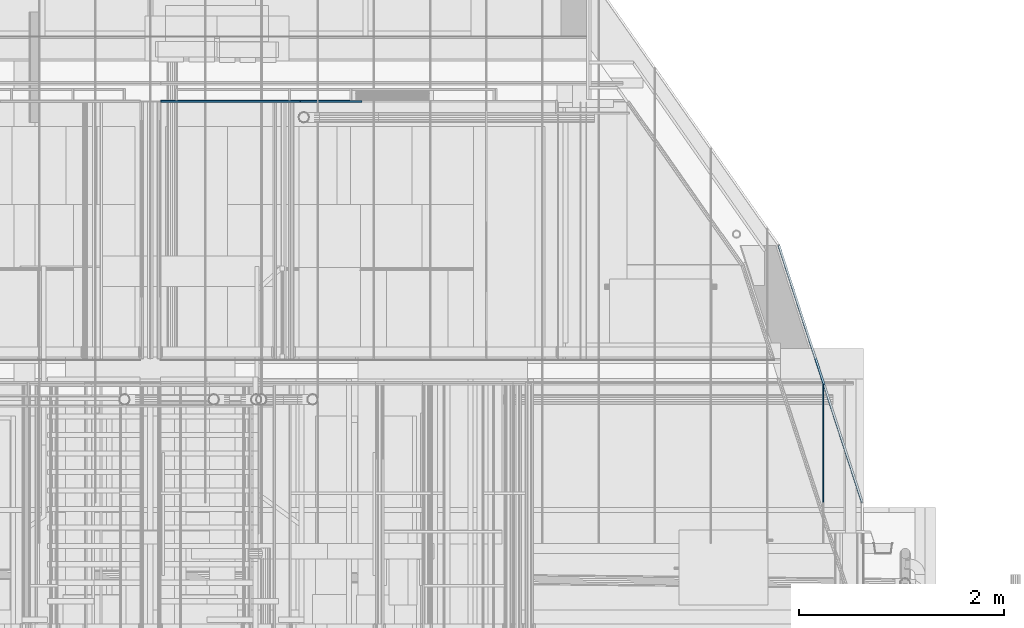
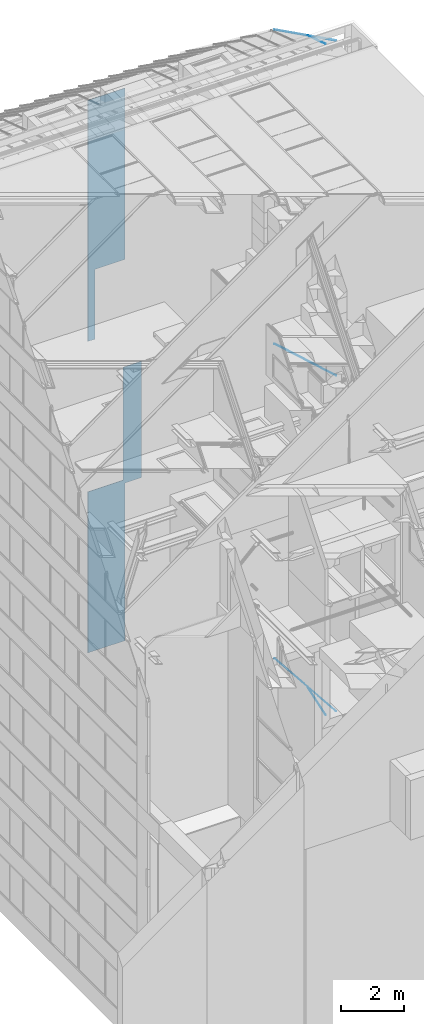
# One storey, part 287 of 583: 7 slabs.
"""IFC2X3 building model written with IfcOpenShell, lengths in metres."""

import ifcopenshell
import ifcopenshell.guid

model = None  # the IFC model being written
_history = None  # IfcOwnerHistory: only IFC2X3 demands one
_inside = {}  # id of a spatial element -> (the spatial element, [elements in it])
_under = {}  # id of a project, library or spatial element -> (it, [spatial elements below it])
_declared = {}  # id of a project -> (the project, [libraries it declares])
_typed = {}  # id of a type object -> (the type object, [elements of that type])
_made_of = {}  # id of a material, layer set ... -> (it, [elements and type objects made of it])


def new_model(schema):
    """Start an empty IFC model of exactly this schema.

    Asked for "IFC4X3", IfcOpenShell would pick the latest addendum, in which some entities
    have other attributes; the version numbers below select the first issue.
    IFC2X3 requires an IfcOwnerHistory on every rooted entity: one is made here for all.
    """
    global model, _history
    if schema == "IFC4X3":
        model = ifcopenshell.file(schema_version=(4, 3, 0, 0))
    else:
        model = ifcopenshell.file(schema=schema)
    _inside.clear()
    _under.clear()
    _declared.clear()
    _typed.clear()
    _made_of.clear()
    _history = None
    if model.schema == "IFC2X3":
        org = make("IfcOrganization", Name="unknown")
        user = make(
            "IfcPersonAndOrganization",
            ThePerson=make("IfcPerson", FamilyName="unknown"),
            TheOrganization=org,
        )
        app = make(
            "IfcApplication",
            ApplicationDeveloper=org,
            Version="unknown",
            ApplicationFullName="unknown",
            ApplicationIdentifier="unknown",
        )
        _history = make(
            "IfcOwnerHistory",
            OwningUser=user,
            OwningApplication=app,
            ChangeAction="ADDED",
            CreationDate=0,
        )
    return model


def make(cls, **values):
    """One entity of the class cls with the attributes given. An attribute that is None is left unset."""
    return model.create_entity(
        cls, **{name: value for name, value in values.items() if value is not None}
    )


def entity(cls, *values):
    """Any entity or typed value of the class cls, its attributes in the order of the schema. None: left unset."""
    e = model.create_entity(cls)
    for i, value in enumerate(values):
        if value is not None:
            e[i] = value
    return e


def rooted(cls, **values):
    """An entity with a GlobalId (a new one), such as an element, a storey or a relation."""
    return make(cls, GlobalId=ifcopenshell.guid.new(), OwnerHistory=_history, **values)


def si_unit(unit_type, name, prefix=None):
    """IfcSIUnit, for example si_unit("LENGTHUNIT", "METRE", prefix="MILLI")."""
    return make("IfcSIUnit", UnitType=unit_type, Prefix=prefix, Name=name)


def converted_unit(unit_type, name, factor, base, dimensions=None, offset=None):
    """IfcConversionBasedUnit, such as the inch: factor (a typed value) times the base unit."""
    return make(
        "IfcConversionBasedUnit"
        if offset is None
        else "IfcConversionBasedUnitWithOffset",
        ConversionOffset=offset,
        Dimensions=None
        if dimensions is None
        else entity("IfcDimensionalExponents", *dimensions),
        UnitType=unit_type,
        Name=name,
        ConversionFactor=make(
            "IfcMeasureWithUnit", ValueComponent=factor, UnitComponent=base
        ),
    )


def derived_unit(unit_type, elements):
    """IfcDerivedUnit: a product of units, each with its exponent."""
    return make(
        "IfcDerivedUnit",
        Elements=[
            make("IfcDerivedUnitElement", Unit=unit, Exponent=power)
            for unit, power in elements
        ],
        UnitType=unit_type,
    )


def money_unit(currency):
    """IfcMonetaryUnit."""
    return make("IfcMonetaryUnit", Currency=currency)


def assignment(units):
    """IfcUnitAssignment: the units of a project."""
    return None if units is None else make("IfcUnitAssignment", Units=units)


def point(xyz):
    """IfcCartesianPoint."""
    return None if xyz is None else make("IfcCartesianPoint", Coordinates=xyz)


def direction(xyz):
    """IfcDirection."""
    return None if xyz is None else make("IfcDirection", DirectionRatios=xyz)


def frame(location, z_axis=None, x_axis=None):
    """IfcAxis2Placement3D, a coordinate frame: its origin and axes. An axis left out is left unset."""
    return make(
        "IfcAxis2Placement3D",
        Location=point(location),
        Axis=direction(z_axis),
        RefDirection=direction(x_axis),
    )


def origin_with_axes():
    """The frame at (0, 0, 0) with the z axis (0, 0, 1) and the x axis (1, 0, 0) written out."""
    return frame((0.0, 0.0, 0.0), z_axis=(0.0, 0.0, 1.0), x_axis=(1.0, 0.0, 0.0))


def place(relative_to, where):
    """IfcLocalPlacement: puts the frame where relative to a parent placement (None: the world)."""
    return make(
        "IfcLocalPlacement", PlacementRelTo=relative_to, RelativePlacement=where
    )


def context(
    kind, dimensions, precision=None, world=None, true_north=None, identifier=None
):
    """IfcGeometricRepresentationContext, for example the 3D "Model" context."""
    return make(
        "IfcGeometricRepresentationContext",
        ContextIdentifier=identifier,
        ContextType=kind,
        CoordinateSpaceDimension=dimensions,
        Precision=precision,
        WorldCoordinateSystem=world,
        TrueNorth=true_north,
    )


def subcontext(parent, identifier, kind, view, scale=None):
    """IfcGeometricRepresentationSubContext, for example "Body" below "Model"."""
    return make(
        "IfcGeometricRepresentationSubContext",
        ContextIdentifier=identifier,
        ContextType=kind,
        ParentContext=parent,
        TargetScale=scale,
        TargetView=view,
    )


def project(units=None, contexts=None):
    """IfcProject with its units and contexts."""
    return rooted(
        "IfcProject",
        Name="project",
        RepresentationContexts=contexts,
        UnitsInContext=assignment(units),
    )


def spatial(cls, under=None, at=None, **own):
    """A site, building, storey or space (cls), placed at a placement, below another one or the project."""
    s = rooted(cls, ObjectPlacement=at, **own)
    if under is not None:
        _under.setdefault(under.id(), (under, []))[1].append(s)
    return s


def faces_of(points, faces, orient=None, outer=None):
    """IfcFace entities. A face is a list of loops; a loop is a list of indices into points, from 0.

    orient and outer hold one flag for each loop. By default every Orientation is true, the
    first loop of a face is its IfcFaceOuterBound and the others are IfcFaceBound.
    """
    made = []
    for i, loops in enumerate(faces):
        bounds = []
        for j, loop in enumerate(loops):
            is_outer = j == 0 if outer is None else outer[i][j]
            bounds.append(
                make(
                    "IfcFaceOuterBound" if is_outer else "IfcFaceBound",
                    Bound=make("IfcPolyLoop", Polygon=[points[k] for k in loop]),
                    Orientation=True if orient is None else orient[i][j],
                )
            )
        made.append(make("IfcFace", Bounds=bounds))
    return made


def faceted_brep(points, faces, orient=None, outer=None, voids=None):
    """IfcFacetedBrep: a solid bounded by flat faces; with voids (closed shells), ...WithVoids."""
    shared = [point(p) for p in points]
    hull = make("IfcClosedShell", CfsFaces=faces_of(shared, faces, orient, outer))
    if voids is None:
        return make("IfcFacetedBrep", Outer=hull)
    return make(
        "IfcFacetedBrepWithVoids",
        Outer=hull,
        Voids=[
            make(cls, CfsFaces=faces_of(shared, fs, o, b)) for cls, fs, o, b in voids
        ],
    )


def shape(context_of_items, identifier, shape_type, items):
    """IfcShapeRepresentation: the items that make up one representation, for example the "Body"."""
    return make(
        "IfcShapeRepresentation",
        ContextOfItems=context_of_items,
        RepresentationIdentifier=identifier,
        RepresentationType=shape_type,
        Items=items,
    )


def material(Name=None, Category=None):
    """IfcMaterial."""
    return make("IfcMaterial", Name=Name, Category=Category)


def made_of(thing, what):
    """Note that an element or type object is made of a material, layer set ...; save() writes the relation."""
    if what is not None:
        _made_of.setdefault(what.id(), (what, []))[1].append(thing)
    return thing


def type_object(cls, material=None, **own):
    """A type object (cls), such as IfcWallType, which elements share."""
    return made_of(rooted(cls, **own), material)


def element(
    cls,
    number,
    at=None,
    inside=None,
    cuts=None,
    type_object=None,
    material=None,
    context=None,
    identifier="Body",
    shape_type=None,
    held_by="IfcProductDefinitionShape",
    body=None,
    shapes=None,
    **own,
):
    """One element of the class cls, such as IfcWall. Its Tag is "e" and its number.

    at: its placement. inside: the storey or other place that contains it. cuts: it is an
    opening in that element (IfcRelVoidsElement). A single representation is given by context,
    identifier, shape_type and body (its items); several are given by shapes. held_by: the class
    of the entity that holds the representations. save() writes the other relations.
    """
    e = rooted(cls, Tag="e%d" % number, ObjectPlacement=at, **own)
    if body is not None:
        shapes = [shape(context, identifier, shape_type, body)]
    if shapes is not None:
        e.Representation = make(held_by, Representations=shapes)
    if inside is not None:
        _inside.setdefault(inside.id(), (inside, []))[1].append(e)
    if cuts is not None:
        rooted(
            "IfcRelVoidsElement", RelatingBuildingElement=cuts, RelatedOpeningElement=e
        )
    if type_object is not None:
        _typed.setdefault(type_object.id(), (type_object, []))[1].append(e)
    return made_of(e, material)


def aggregate(whole, parts):
    """IfcRelAggregates: a whole, such as a stair, and the parts it consists of."""
    return rooted("IfcRelAggregates", RelatingObject=whole, RelatedObjects=parts)


def save(model, path):
    """Write the relations noted so far, then the file.

    IfcRelAggregates (storeys below a building ...), IfcRelContainedInSpatialStructure (elements
    in a storey), IfcRelDefinesByType, IfcRelAssociatesMaterial and IfcRelDeclares: one each for
    every whole, place, type object, material and project.
    """
    for whole, parts in _under.values():
        aggregate(whole, parts)
    for where, things in _inside.values():
        rooted(
            "IfcRelContainedInSpatialStructure",
            RelatedElements=things,
            RelatingStructure=where,
        )
    for kind, things in _typed.values():
        rooted("IfcRelDefinesByType", RelatedObjects=things, RelatingType=kind)
    for what, things in _made_of.values():
        rooted("IfcRelAssociatesMaterial", RelatedObjects=things, RelatingMaterial=what)
    for by, libraries in _declared.values():
        rooted("IfcRelDeclares", RelatingContext=by, RelatedDefinitions=libraries)
    model.write(path)


model = new_model("IFC2X3")

# Units and contexts
model_context = context("Model", 3, precision=1e-05, world=origin_with_axes(), true_north=direction((0.0, 1.0)))
body_context = subcontext(model_context, "Body", "Model", "MODEL_VIEW", scale=1.0)
ifc_project = project(units=[si_unit("LENGTHUNIT", "METRE"), si_unit("AREAUNIT", "SQUARE_METRE"), si_unit("VOLUMEUNIT", "CUBIC_METRE"), si_unit("ABSORBEDDOSEUNIT", "GRAY"), si_unit("AMOUNTOFSUBSTANCEUNIT", "MOLE"), si_unit("DOSEEQUIVALENTUNIT", "SIEVERT"), si_unit("ELECTRICCAPACITANCEUNIT", "FARAD"), si_unit("ELECTRICCHARGEUNIT", "COULOMB"), si_unit("ELECTRICCONDUCTANCEUNIT", "SIEMENS"), si_unit("ELECTRICCURRENTUNIT", "AMPERE"), si_unit("ELECTRICRESISTANCEUNIT", "OHM"), si_unit("ELECTRICVOLTAGEUNIT", "VOLT"), si_unit("ENERGYUNIT", "JOULE"), si_unit("FORCEUNIT", "NEWTON"), si_unit("FREQUENCYUNIT", "HERTZ"), si_unit("ILLUMINANCEUNIT", "LUX"), si_unit("INDUCTANCEUNIT", "HENRY"), si_unit("LUMINOUSFLUXUNIT", "LUMEN"), si_unit("LUMINOUSINTENSITYUNIT", "CANDELA"), si_unit("MAGNETICFLUXDENSITYUNIT", "TESLA"), si_unit("MAGNETICFLUXUNIT", "WEBER"), si_unit("MASSUNIT", "GRAM"), converted_unit("PLANEANGLEUNIT", "degree", entity("IfcReal", 0.0174532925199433), si_unit("PLANEANGLEUNIT", "RADIAN"), dimensions=[0, 0, 0, 0, 0, 0, 0]), si_unit("POWERUNIT", "WATT"), si_unit("PRESSUREUNIT", "PASCAL"), si_unit("RADIOACTIVITYUNIT", "BECQUEREL"), si_unit("SOLIDANGLEUNIT", "STERADIAN"), si_unit("THERMODYNAMICTEMPERATUREUNIT", "KELVIN"), si_unit("TIMEUNIT", "SECOND"), derived_unit("ACCELERATIONUNIT", [(si_unit("LENGTHUNIT", "METRE"), 1), (si_unit("TIMEUNIT", "SECOND"), -2)]), derived_unit("ANGULARVELOCITYUNIT", [(converted_unit("PLANEANGLEUNIT", "degree", entity("IfcReal", 0.0174532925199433), si_unit("PLANEANGLEUNIT", "RADIAN"), dimensions=[0, 0, 0, 0, 0, 0, 0]), 1), (si_unit("TIMEUNIT", "SECOND"), -1)]), derived_unit("CURVATUREUNIT", [(converted_unit("PLANEANGLEUNIT", "degree", entity("IfcReal", 0.0174532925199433), si_unit("PLANEANGLEUNIT", "RADIAN"), dimensions=[0, 0, 0, 0, 0, 0, 0]), 1), (si_unit("LENGTHUNIT", "METRE"), -1)]), derived_unit("DYNAMICVISCOSITYUNIT", [(si_unit("PRESSUREUNIT", "PASCAL"), 1), (si_unit("TIMEUNIT", "SECOND"), 1)]), derived_unit("HEATFLUXDENSITYUNIT", [(si_unit("POWERUNIT", "WATT"), 1), (si_unit("LENGTHUNIT", "METRE"), -2)]), derived_unit("HEATINGVALUEUNIT", [(si_unit("ENERGYUNIT", "JOULE"), 1), (si_unit("MASSUNIT", "GRAM"), -1)]), derived_unit("INTEGERCOUNTRATEUNIT", [(si_unit("TIMEUNIT", "SECOND"), -1)]), derived_unit("IONCONCENTRATIONUNIT", [(si_unit("MASSUNIT", "GRAM"), 1), (si_unit("VOLUMEUNIT", "CUBIC_METRE"), -1)]), derived_unit("ISOTHERMALMOISTURECAPACITYUNIT", [(si_unit("VOLUMEUNIT", "CUBIC_METRE"), 1), (si_unit("MASSUNIT", "GRAM"), -1)]), derived_unit("KINEMATICVISCOSITYUNIT", [(si_unit("AREAUNIT", "SQUARE_METRE"), 1), (si_unit("TIMEUNIT", "SECOND"), -1)]), derived_unit("LINEARFORCEUNIT", [(si_unit("FORCEUNIT", "NEWTON"), 1), (si_unit("LENGTHUNIT", "METRE"), -1)]), derived_unit("LINEARMOMENTUNIT", [(si_unit("FORCEUNIT", "NEWTON"), 1), (si_unit("LENGTHUNIT", "METRE"), -1)]), derived_unit("LINEARSTIFFNESSUNIT", [(si_unit("FORCEUNIT", "NEWTON"), 1), (si_unit("LENGTHUNIT", "METRE"), -1)]), derived_unit("LINEARVELOCITYUNIT", [(si_unit("LENGTHUNIT", "METRE"), 1), (si_unit("TIMEUNIT", "SECOND"), -1)]), derived_unit("LUMINOUSINTENSITYDISTRIBUTIONUNIT", [(si_unit("LUMINOUSINTENSITYUNIT", "CANDELA"), 1), (si_unit("LUMINOUSFLUXUNIT", "LUMEN"), -1)]), derived_unit("MASSDENSITYUNIT", [(si_unit("MASSUNIT", "GRAM"), 1), (si_unit("VOLUMEUNIT", "CUBIC_METRE"), -1)]), derived_unit("MASSFLOWRATEUNIT", [(si_unit("MASSUNIT", "GRAM"), 1), (si_unit("TIMEUNIT", "SECOND"), -1)]), derived_unit("MASSPERLENGTHUNIT", [(si_unit("MASSUNIT", "GRAM"), 1), (si_unit("LENGTHUNIT", "METRE"), -1)]), derived_unit("MODULUSOFELASTICITYUNIT", [(si_unit("FORCEUNIT", "NEWTON"), 1), (si_unit("AREAUNIT", "SQUARE_METRE"), -1)]), derived_unit("MODULUSOFLINEARSUBGRADEREACTIONUNIT", [(si_unit("FORCEUNIT", "NEWTON"), 1), (si_unit("LENGTHUNIT", "METRE"), -2)]), derived_unit("MODULUSOFROTATIONALSUBGRADEREACTIONUNIT", [(si_unit("FORCEUNIT", "NEWTON"), 1), (si_unit("LENGTHUNIT", "METRE"), 1)]), derived_unit("MODULUSOFSUBGRADEREACTIONUNIT", [(si_unit("FORCEUNIT", "NEWTON"), 1), (si_unit("VOLUMEUNIT", "CUBIC_METRE"), -1)]), derived_unit("MOISTUREDIFFUSIVITYUNIT", [(si_unit("VOLUMEUNIT", "CUBIC_METRE"), 1), (si_unit("TIMEUNIT", "SECOND"), -1)]), derived_unit("MOLECULARWEIGHTUNIT", [(si_unit("MASSUNIT", "GRAM"), 1), (si_unit("AMOUNTOFSUBSTANCEUNIT", "MOLE"), -1)]), derived_unit("PLANARFORCEUNIT", [(si_unit("FORCEUNIT", "NEWTON"), 1), (si_unit("LENGTHUNIT", "METRE"), -2)]), derived_unit("ROTATIONALFREQUENCYUNIT", [(si_unit("TIMEUNIT", "SECOND"), -1)]), derived_unit("ROTATIONALMASSUNIT", [(si_unit("MASSUNIT", "GRAM"), 1), (si_unit("LENGTHUNIT", "METRE"), 2)]), derived_unit("ROTATIONALSTIFFNESSUNIT", [(si_unit("FORCEUNIT", "NEWTON"), 1), (si_unit("LENGTHUNIT", "METRE"), 1), (converted_unit("PLANEANGLEUNIT", "degree", entity("IfcReal", 0.0174532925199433), si_unit("PLANEANGLEUNIT", "RADIAN"), dimensions=[0, 0, 0, 0, 0, 0, 0]), -1)]), derived_unit("SECTIONAREAINTEGRALUNIT", [(si_unit("LENGTHUNIT", "METRE"), 5)]), derived_unit("SECTIONMODULUSUNIT", [(si_unit("LENGTHUNIT", "METRE"), 3)]), derived_unit("SHEARMODULUSUNIT", [(si_unit("FORCEUNIT", "NEWTON"), 1), (si_unit("AREAUNIT", "SQUARE_METRE"), -1)]), derived_unit("SOUNDPOWERUNIT", [(si_unit("ENERGYUNIT", "JOULE"), 1), (si_unit("TIMEUNIT", "SECOND"), -1)]), derived_unit("SPECIFICHEATCAPACITYUNIT", [(si_unit("FORCEUNIT", "NEWTON"), 1), (si_unit("MASSUNIT", "GRAM"), -1), (si_unit("THERMODYNAMICTEMPERATUREUNIT", "KELVIN"), -1)]), derived_unit("TEMPERATUREGRADIENTUNIT", [(si_unit("THERMODYNAMICTEMPERATUREUNIT", "KELVIN"), 1), (si_unit("LENGTHUNIT", "METRE"), -1)]), derived_unit("THERMALADMITTANCEUNIT", [(si_unit("POWERUNIT", "WATT"), 1), (si_unit("AREAUNIT", "SQUARE_METRE"), -1), (si_unit("THERMODYNAMICTEMPERATUREUNIT", "KELVIN"), -1)]), derived_unit("THERMALCONDUCTANCEUNIT", [(si_unit("POWERUNIT", "WATT"), 1), (si_unit("LENGTHUNIT", "METRE"), -1), (si_unit("THERMODYNAMICTEMPERATUREUNIT", "KELVIN"), -1)]), derived_unit("THERMALEXPANSIONCOEFFICIENTUNIT", [(si_unit("THERMODYNAMICTEMPERATUREUNIT", "KELVIN"), -1)]), derived_unit("THERMALRESISTANCEUNIT", [(si_unit("AREAUNIT", "SQUARE_METRE"), 1), (si_unit("POWERUNIT", "WATT"), -1)]), derived_unit("THERMALTRANSMITTANCEUNIT", [(si_unit("POWERUNIT", "WATT"), 1), (si_unit("AREAUNIT", "SQUARE_METRE"), -1), (si_unit("THERMODYNAMICTEMPERATUREUNIT", "KELVIN"), -1)]), derived_unit("TORQUEUNIT", [(si_unit("FORCEUNIT", "NEWTON"), 1), (si_unit("LENGTHUNIT", "METRE"), 1)]), derived_unit("VAPORPERMEABILITYUNIT", [(si_unit("MASSUNIT", "GRAM"), 1), (si_unit("TIMEUNIT", "SECOND"), -1)]), derived_unit("VOLUMETRICFLOWRATEUNIT", [(si_unit("VOLUMEUNIT", "CUBIC_METRE"), 1), (si_unit("TIMEUNIT", "SECOND"), -1)]), derived_unit("WARPINGCONSTANTUNIT", [(si_unit("LENGTHUNIT", "METRE"), 6)]), derived_unit("WARPINGMOMENTUNIT", [(si_unit("FORCEUNIT", "NEWTON"), 1), (si_unit("LENGTHUNIT", "METRE"), 2)]), money_unit("GBP")], contexts=[model_context])

# Site, building, storey
site_placement = place(None, origin_with_axes())
site = spatial("IfcSite", under=ifc_project, at=site_placement, Name="Site", CompositionType="ELEMENT")
building_placement = place(site_placement, origin_with_axes())
building = spatial("IfcBuilding", under=site, at=building_placement, Name="Building01", CompositionType="ELEMENT")
storey_placement = place(building_placement, frame((0.0, 0.0, 20.78), z_axis=(0.0, 0.0, 1.0), x_axis=(1.0, 0.0, 0.0)))
storey = spatial("IfcBuildingStorey", under=building, at=storey_placement, Name="RL", CompositionType="ELEMENT", Elevation=20.78)

# Slabs
ifc_material_1 = material(Name="A_BSUK_CeilingSoffitFinishes_Suspended")
slab_type = type_object("IfcSlabType", Name="A-FloorsSlabs A_BSUK_Slabs", PredefinedType="FLOOR")
placement = place(storey_placement, frame((0.0, 0.0, -20.78), z_axis=(0.0, 0.0, 1.0), x_axis=(1.0, 0.0, 0.0)))
element("IfcSlab", 1, at=placement, inside=storey, type_object=slab_type, material=ifc_material_1, Name="A-FloorsSlabs A_BSUK_Slabs", ObjectType="CompoundSlabLeaf", context=body_context, shape_type="Brep", body=[
    faceted_brep([(8.9116, 20.18, 2.798126), (8.9116, 20.195, 2.798126), (8.9116, 20.195, 8.9), (8.9116, 20.18, 8.9), (7.55, 20.18, 2.798126), (7.55, 20.195, 2.798126), (7.55, 20.18, 4.74), (7.55, 20.195, 4.74), (7.550907, 20.18, 7.54), (7.550907, 20.195, 7.54), (7.55, 20.18, 7.54), (7.55, 20.195, 7.54), (7.55, 20.18, 9.03), (7.55, 20.195, 9.03), (8.847353, 20.18, 9.03), (8.847353, 20.195, 9.03), (8.847353, 20.18, 13.4), (8.847353, 20.195, 13.4), (9.5116, 20.18, 13.4), (9.5116, 20.195, 13.4), (9.5116, 20.18, 8.9), (9.5116, 20.195, 8.9)], [[[0, 1, 2, 3]], [[4, 5, 1, 0]], [[6, 7, 5, 4]], [[8, 9, 7, 6]], [[10, 11, 9, 8]], [[12, 13, 11, 10]], [[14, 15, 13, 12]], [[16, 17, 15, 14]], [[18, 19, 17, 16]], [[20, 21, 19, 18]], [[3, 2, 21, 20]], [[1, 5, 7, 9, 11, 13, 15, 17, 19, 21, 2]], [[3, 20, 18, 16, 14, 12, 10, 8, 6, 4, 0]]]),
])
element("IfcSlab", 2, at=placement, inside=storey, type_object=slab_type, material=ifc_material_1, Name="A-FloorsSlabs A_BSUK_Slabs", ObjectType="CompoundSlabLeaf", context=body_context, shape_type="Brep", body=[
    faceted_brep([(8.9116, 20.18, 17.55), (8.9116, 20.195, 17.55), (8.9116, 20.195, 24.181874), (8.9116, 20.18, 24.181874), (7.8116, 20.18, 17.55), (7.8116, 20.195, 17.55), (7.8116, 20.18, 14.85), (7.8116, 20.195, 14.85), (7.549939, 20.18, 14.85), (7.549939, 20.195, 14.85), (7.549939, 20.18, 18.289976), (7.549939, 20.195, 18.289976), (7.549939, 20.18, 21.268507), (7.549939, 20.195, 21.268507), (7.549915, 20.18, 21.268507), (7.549915, 20.195, 21.268507), (7.549915, 20.18, 24.181874), (7.549915, 20.195, 24.181874)], [[[0, 1, 2, 3]], [[4, 5, 1, 0]], [[6, 7, 5, 4]], [[8, 9, 7, 6]], [[10, 11, 9, 8]], [[12, 13, 11, 10]], [[14, 15, 13, 12]], [[16, 17, 15, 14]], [[3, 2, 17, 16]], [[1, 5, 7, 9, 11, 13, 15, 17, 2]], [[3, 16, 14, 12, 10, 8, 6, 4, 0]]]),
])
ifc_material_2 = material(Name="A_BSUK_Roofs")
slab_3_placement = place(storey_placement, frame((14.38, 16.274427, -7.284976), z_axis=(0.0, 1.0, 0.0), x_axis=(0.0, 0.0, -1.0)))
element("IfcSlab", 3, at=slab_3_placement, inside=storey, type_object=slab_type, material=ifc_material_2, Name="A-FloorsSlabs A_BSUK_Slabs", ObjectType="A-FloorsSlabs A_BSUK_Slabs", context=body_context, shape_type="Brep", body=[
    faceted_brep([(0.0, 0.81426, 2.506034), (0.0, 0.795239, 2.512214), (0.0, -0.019021, 0.00618), (0.0, 0.0, 0.0), (-0.01, -0.019021, 0.00618), (-0.01, 0.0, 0.0), (-0.01, 0.795239, 2.512214), (-0.01, 0.81426, 2.506034)], [[[0, 1, 2, 3]], [[3, 2, 4, 5]], [[5, 4, 6, 7]], [[7, 6, 1, 0]], [[1, 6, 4, 2]], [[3, 5, 7, 0]]]),
])
slab_4_placement = place(storey_placement, frame((14.003453, 16.274427, 5.68), z_axis=(0.0, 1.0, 0.0), x_axis=(1.0, 0.0, 0.0)))
element("IfcSlab", 4, at=slab_4_placement, inside=storey, type_object=slab_type, material=ifc_material_2, Name="A-FloorsSlabs A_BSUK_Slabs", ObjectType="A-FloorsSlabs A_BSUK_Slabs", context=body_context, shape_type="Brep", body=[
    faceted_brep([(0.0, 0.0, 0.0), (0.0, -0.019021, 0.00618), (0.0, 0.354035, 1.154329), (0.0, 0.373056, 1.148148), (0.01, 0.0, 0.0), (0.01, -0.019021, 0.00618), (0.01, 0.373056, 1.148148), (0.01, 0.354035, 1.154329)], [[[0, 1, 2, 3]], [[4, 5, 1, 0]], [[6, 7, 5, 4]], [[3, 2, 7, 6]], [[1, 5, 7, 2]], [[3, 6, 4, 0]]]),
])
slab_5_placement = place(storey_placement, frame((14.003453, 16.274427, -20.26), z_axis=(0.0, 1.0, 0.0), x_axis=(-1.0, 0.0, 0.0)))
element("IfcSlab", 5, at=slab_5_placement, inside=storey, type_object=slab_type, material=ifc_material_2, Name="A-FloorsSlabs A_BSUK_Slabs", ObjectType="A-FloorsSlabs A_BSUK_Slabs", context=body_context, shape_type="Brep", body=[
    faceted_brep([(0.0, 0.373056, 1.148148), (0.0, 0.354035, 1.154329), (0.0, -0.019021, 0.00618), (0.0, 0.0, 0.0), (-0.01, -0.019021, 0.00618), (-0.01, 0.0, 0.0), (-0.01, 0.354035, 1.154329), (-0.01, 0.373056, 1.148148)], [[[0, 1, 2, 3]], [[3, 2, 4, 5]], [[5, 4, 6, 7]], [[7, 6, 1, 0]], [[1, 6, 4, 2]], [[3, 5, 7, 0]]]),
])
slab_6_placement = place(storey_placement, frame((14.529365, 15.823136, -20.402419), z_axis=(0.17017819, 0.98220593, -0.07944109), x_axis=(-0.63069801, 0.0466235, -0.77462653)))
element("IfcSlab", 6, at=slab_6_placement, inside=storey, type_object=slab_type, material=ifc_material_2, Name="A-FloorsSlabs A_BSUK_Slabs", ObjectType="A-FloorsSlabs A_BSUK_Slabs", context=body_context, shape_type="Brep", body=[
    faceted_brep([(-2.3e-05, 0.284708, 0.406723), (-2.3e-05, 0.26838, 0.418156), (-2.3e-05, 1.849297, 2.675938), (-2.3e-05, 1.865624, 2.664506), (0.01, 0.284708, 0.406723), (0.01, 0.26838, 0.418156), (0.01, 1.865624, 2.664506), (0.01, 1.849297, 2.675938)], [[[0, 1, 2, 3]], [[4, 5, 1, 0]], [[6, 7, 5, 4]], [[3, 2, 7, 6]], [[1, 5, 7, 2]], [[3, 6, 4, 0]]]),
])
slab_7_placement = place(storey_placement, frame((14.529365, 15.823136, 5.823472), z_axis=(0.17017819, 0.98220593, 0.07944109), x_axis=(0.63069801, -0.0466235, -0.77462653)))
element("IfcSlab", 7, at=slab_7_placement, inside=storey, type_object=slab_type, material=ifc_material_2, Name="A-FloorsSlabs A_BSUK_Slabs", ObjectType="A-FloorsSlabs A_BSUK_Slabs", context=body_context, shape_type="Brep", body=[
    faceted_brep([(2.3e-05, 1.865624, 2.664506), (2.3e-05, 1.849297, 2.675938), (2.3e-05, 0.26838, 0.418156), (2.3e-05, 0.284708, 0.406723), (-0.01, 0.26838, 0.418156), (-0.01, 0.284708, 0.406723), (-0.01, 1.849297, 2.675938), (-0.01, 1.865624, 2.664506)], [[[0, 1, 2, 3]], [[3, 2, 4, 5]], [[5, 4, 6, 7]], [[7, 6, 1, 0]], [[1, 6, 4, 2]], [[3, 5, 7, 0]]]),
])

save(model, "model.ifc")
